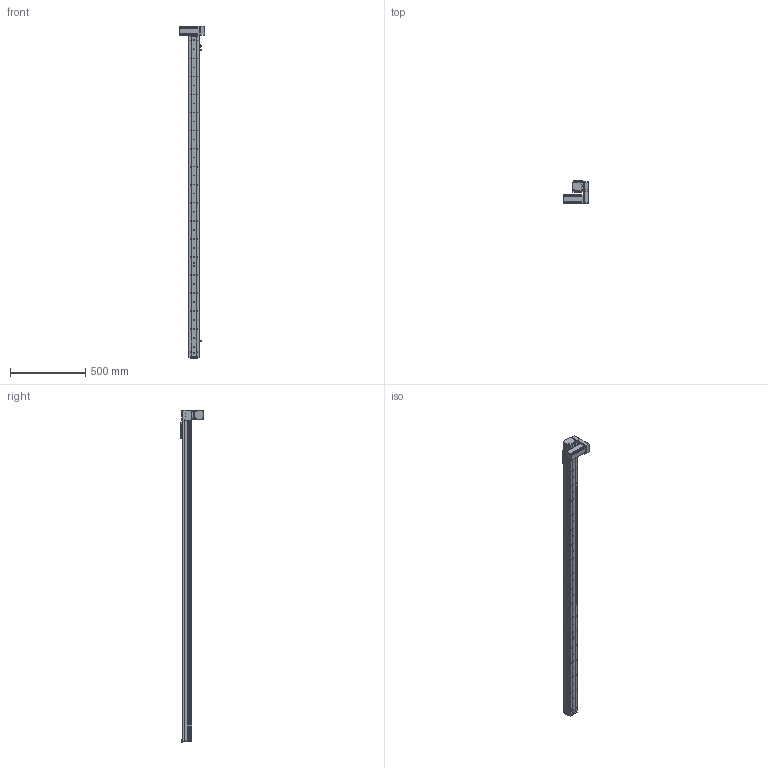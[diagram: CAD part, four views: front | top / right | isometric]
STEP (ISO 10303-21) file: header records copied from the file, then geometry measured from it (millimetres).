
FILE_DESCRIPTION (( 'STEP AP214' ), '1' );
FILE_NAME ('KSD68BS-S1950-MLD-CR.STEP', '2019-11-07T05:59:58', ( '微软用户' ), ( '微软中国' ), 'SwSTEP 2.0', 'SolidWorks 2014', '' );
FILE_SCHEMA (( 'AUTOMOTIVE_DESIGN' ));
Length unit declared in the file: millimetre
Products named in the file (14): KSD68BS 1950行程盖板全封闭; 感应片68宽全封闭; 68遵裔啣揤啣1; U倰嫖萇EEㄜSX672; 台达ECMA－C20604AS伺服电机（400W); KSD68BS 1950行程底板全封闭; KSD68BS-S1950-MLD-CR; 68宽单导轨全封闭丝杆传动安装板1防护罩; KSD68BS 1950行程侧板全封闭; 68宽单导轨全封闭同步带端板; 68单导轨全封闭同步带电机座左; 68单导轨全封闭同步带安装板; 悵誘欶奻狟殏; 68宽马达安装板连板上折同步带
Assembly tree (17 placements, depth 2):
  KSD68BS-S1950-MLD-CR
    KSD68BS 1950行程底板全封闭
    台达ECMA－C20604AS伺服电机（400W)
    U倰嫖萇EEㄜSX672  x3
    感应片68宽全封闭
    68宽马达安装板连板上折同步带
    悵誘欶奻狟殏
    68单导轨全封闭同步带安装板
    68单导轨全封闭同步带电机座左
    68宽单导轨全封闭同步带端板
    KSD68BS 1950行程侧板全封闭  x2
    68宽单导轨全封闭丝杆传动安装板1防护罩
    68遵裔啣揤啣1  x2
    KSD68BS 1950行程盖板全封闭
Bounding box: 167.2 x 155.5 x 2208.1 mm (x, y, z)
Volume: 3816605 mm3; surface area: 1575509.8 mm2
Topology: 18 solids, 18 shells, 1653 faces, 4787 edges, 3046 vertices
Faces by surface type: cylinder 824, plane 629, cone 200
Entity records: 54671 total; most frequent: CARTESIAN_POINT 9589, DIRECTION 8110, ORIENTED_EDGE 7762, EDGE_CURVE 3881, AXIS2_PLACEMENT_3D 2971, VERTEX_POINT 2544, VECTOR 2168, LINE 2168
